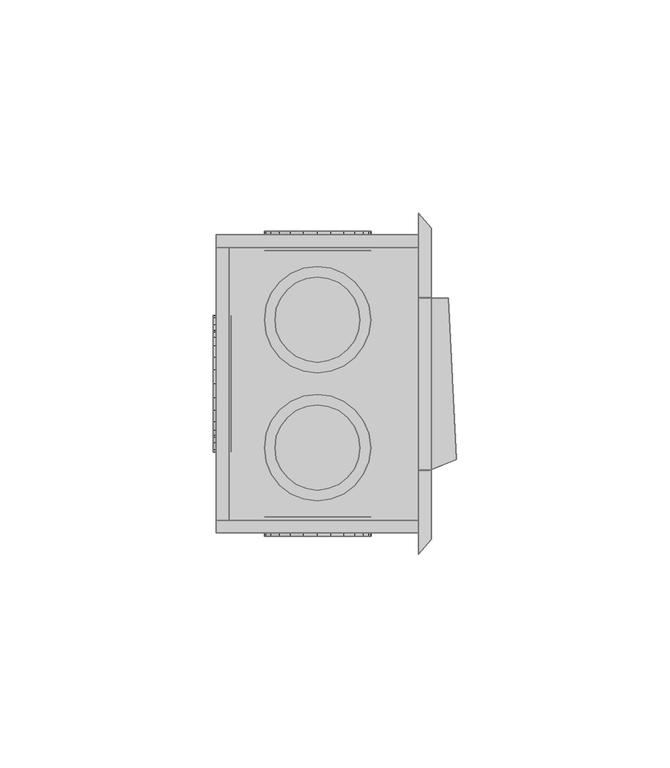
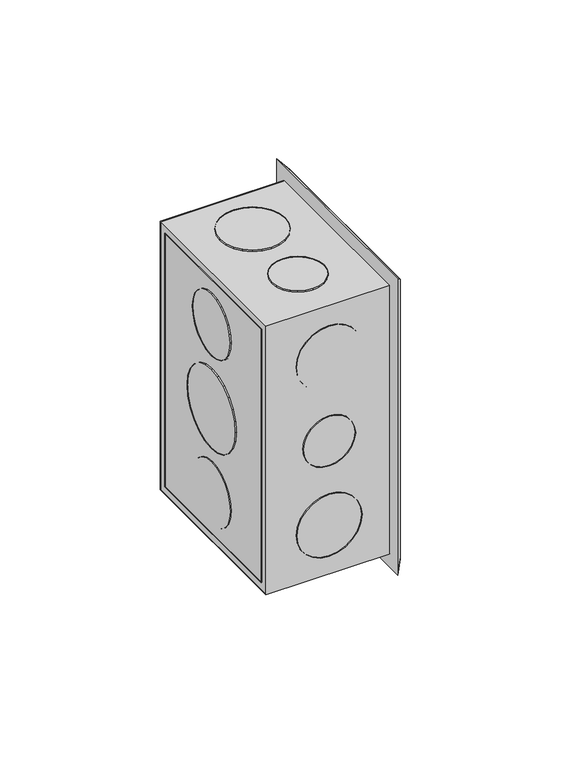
"""IFC4 building model written with IfcOpenShell, lengths in millimetres: proxy geometry,  210993 :  210993."""

from ifc_helpers import new_model, si_unit, origin, place, context, project, spatial, triangles, source, transform, mapped, element, save


def generic_models_ce6a7750(model_context):
    return source(origin(), model_context, "Body", "Tessellation", [
        triangles([(6623.3997849, 19710.5992126, 1254.3000378), (6623.3997849, 19707.5993958, 1148.7000154), (6623.3997849, 19710.5992126, 1145.6999805), (6623.3997849, 19707.5993958, 1251.2999302), (6623.3997849, 19640.6011597, 1254.3000378), (6623.3997849, 19643.6009766, 1251.2999302), (6623.3997849, 19640.6011597, 1145.6999805), (6623.3997849, 19643.6009766, 1148.7000154), (6575.8997772, 19707.5993958, 1251.2999302), (6575.8997772, 19707.5993958, 1148.7000154), (6575.8997772, 19640.6011597, 1254.3000378), (6575.8997772, 19640.6011597, 1145.6999805), (6575.8997772, 19643.6009766, 1251.2999302), (6575.8997772, 19710.5992126, 1145.6999805), (6575.8997772, 19643.6009766, 1148.7000154), (6575.8997772, 19710.5992126, 1254.3000378), (6578.9001755, 19707.5993958, 1251.2999302), (6578.9001755, 19643.6009766, 1148.7000154), (6578.9001755, 19707.5993958, 1148.7000154), (6578.9001755, 19643.6009766, 1251.2999302), (6579.400145, 19689.5005005, 1191.9999887), (6579.400145, 19683.6008606, 1186.0999855), (6579.400145, 19686.9006592, 1188.6999722), (6579.400145, 19691.1004028, 1195.8999687), (6579.400145, 19679.8010925, 1184.5000105), (6579.400145, 19691.6003723, 1200.0000092), (6579.400145, 19675.5990234, 1183.9999683), (6579.400145, 19691.1004028, 1204.0999769), (6579.400145, 19671.4992737, 1184.5000105), (6579.400145, 19689.5005005, 1208.0000296), (6579.400145, 19667.5995117, 1186.0999855), (6579.400145, 19686.9006592, 1211.2999735), (6579.400145, 19664.2997131, 1188.6999722), (6579.400145, 19683.6008606, 1213.9000328), (6579.400145, 19661.7998657, 1191.9999887), (6579.400145, 19679.8010925, 1215.5000078), (6579.400145, 19660.1999634, 1195.8999687), (6579.400145, 19675.5990234, 1215.9999773), (6579.400145, 19659.6, 1200.0000092), (6579.400145, 19671.4992737, 1215.5000078), (6579.400145, 19660.1999634, 1204.0999769), (6579.400145, 19667.5995117, 1213.9000328), (6579.400145, 19661.7998657, 1208.0000296), (6579.400145, 19664.2997131, 1211.2999735), (6575.1998199, 19671.4992737, 1184.5000105), (6575.1998199, 19675.5990234, 1183.9999683), (6575.1998199, 19679.8010925, 1184.5000105), (6575.1998199, 19683.6008606, 1186.0999855), (6575.1998199, 19686.9006592, 1188.6999722), (6575.1998199, 19689.5005005, 1191.9999887), (6575.1998199, 19691.1004028, 1195.8999687), (6575.1998199, 19691.6003723, 1200.0000092), (6575.1998199, 19691.1004028, 1204.0999769), (6575.1998199, 19689.5005005, 1208.0000296), (6575.1998199, 19686.9006592, 1211.2999735), (6575.1998199, 19683.6008606, 1213.9000328), (6575.1998199, 19679.8010925, 1215.5000078), (6575.1998199, 19675.5990234, 1215.9999773), (6575.1998199, 19671.4992737, 1215.5000078), (6575.1998199, 19667.5995117, 1213.9000328), (6575.1998199, 19664.2997131, 1211.2999735), (6575.1998199, 19661.7998657, 1208.0000296), (6575.1998199, 19660.1999634, 1204.0999769), (6575.1998199, 19659.6, 1200.0000092), (6575.1998199, 19660.1999634, 1195.8999687), (6575.1998199, 19661.7998657, 1191.9999887), (6575.1998199, 19664.2997131, 1188.6999722), (6575.1998199, 19667.5995117, 1186.0999855), (6579.400145, 19686.5006836, 1227.8000565), (6579.400145, 19681.9009644, 1223.2000465), (6579.400145, 19684.5008057, 1225.2000698), (6579.400145, 19687.7006104, 1230.8000187), (6579.400145, 19678.9011475, 1221.8999805), (6579.400145, 19688.1005859, 1233.9999687), (6579.400145, 19675.5990234, 1221.500005), (6579.400145, 19687.7006104, 1237.2000641), (6579.400145, 19672.3992188, 1221.8999805), (6579.400145, 19686.5006836, 1240.3000202), (6579.400145, 19669.3994019, 1223.2000465), (6579.400145, 19684.5008057, 1242.800013), (6579.400145, 19666.7995605, 1225.2000698), (6579.400145, 19664.7996826, 1227.8000565), (6579.400145, 19681.9009644, 1244.8000362), (6579.400145, 19678.9011475, 1246.0999569), (6579.400145, 19663.5997559, 1230.8000187), (6579.400145, 19675.5990234, 1246.4999325), (6579.400145, 19663.0997864, 1233.9999687), (6579.400145, 19672.3992188, 1246.0999569), (6579.400145, 19663.5997559, 1237.2000641), (6579.400145, 19664.7996826, 1240.3000202), (6579.400145, 19669.3994019, 1244.8000362), (6579.400145, 19666.7995605, 1242.800013), (6575.1998199, 19663.5997559, 1230.8000187), (6575.1998199, 19664.7996826, 1227.8000565), (6575.1998199, 19666.7995605, 1225.2000698), (6575.1998199, 19669.3994019, 1223.2000465), (6575.1998199, 19672.3992188, 1221.8999805), (6575.1998199, 19675.5990234, 1221.500005), (6575.1998199, 19678.9011475, 1221.8999805), (6575.1998199, 19681.9009644, 1223.2000465), (6575.1998199, 19684.5008057, 1225.2000698), (6575.1998199, 19686.5006836, 1227.8000565), (6575.1998199, 19687.7006104, 1230.8000187), (6575.1998199, 19688.1005859, 1233.9999687), (6575.1998199, 19687.7006104, 1237.2000641), (6575.1998199, 19686.5006836, 1240.3000202), (6575.1998199, 19684.5008057, 1242.800013), (6575.1998199, 19681.9009644, 1244.8000362), (6575.1998199, 19678.9011475, 1246.0999569), (6575.1998199, 19675.5990234, 1246.4999325), (6575.1998199, 19672.3992188, 1246.0999569), (6575.1998199, 19669.3994019, 1244.8000362), (6575.1998199, 19666.7995605, 1242.800013), (6575.1998199, 19664.7996826, 1240.3000202), (6575.1998199, 19663.5997559, 1237.2000641), (6575.1998199, 19663.0997864, 1233.9999687), (6575.1998199, 19681.9009644, 1155.1999821), (6575.1998199, 19686.5006836, 1159.6999981), (6575.1998199, 19684.5008057, 1157.2000053), (6575.1998199, 19678.9011475, 1153.8999887), (6575.1998199, 19687.7006104, 1162.8000269), (6575.1998199, 19675.5990234, 1153.5000132), (6575.1998199, 19688.1005859, 1165.9999769), (6575.1998199, 19672.3992188, 1153.8999887), (6575.1998199, 19687.7006104, 1169.1999996), (6575.1998199, 19669.3994019, 1155.1999821), (6575.1998199, 19686.5006836, 1172.2000345), (6575.1998199, 19666.7995605, 1157.2000053), (6575.1998199, 19684.5008057, 1174.8000212), (6575.1998199, 19664.7996826, 1159.6999981), (6575.1998199, 19681.9009644, 1176.7999718), (6575.1998199, 19663.5997559, 1162.8000269), (6575.1998199, 19678.9011475, 1178.0999651), (6575.1998199, 19675.5990234, 1178.5000134), (6575.1998199, 19663.0997864, 1165.9999769), (6575.1998199, 19663.5997559, 1169.1999996), (6575.1998199, 19672.3992188, 1178.0999651), (6575.1998199, 19664.7996826, 1172.2000345), (6575.1998199, 19669.3994019, 1176.7999718), (6575.1998199, 19666.7995605, 1174.8000212), (6579.400145, 19678.9011475, 1178.0999651), (6579.400145, 19675.5990234, 1178.5000134), (6579.400145, 19681.9009644, 1176.7999718), (6579.400145, 19684.5008057, 1174.8000212), (6579.400145, 19686.5006836, 1172.2000345), (6579.400145, 19687.7006104, 1169.1999996), (6579.400145, 19688.1005859, 1165.9999769), (6579.400145, 19687.7006104, 1162.8000269), (6579.400145, 19686.5006836, 1159.6999981), (6579.400145, 19684.5008057, 1157.2000053), (6579.400145, 19681.9009644, 1155.1999821), (6579.400145, 19678.9011475, 1153.8999887), (6579.400145, 19675.5990234, 1153.5000132), (6579.400145, 19672.3992188, 1153.8999887), (6579.400145, 19669.3994019, 1155.1999821), (6579.400145, 19666.7995605, 1157.2000053), (6579.400145, 19664.7996826, 1159.6999981), (6579.400145, 19663.5997559, 1162.8000269), (6579.400145, 19663.0997864, 1165.9999769), (6579.400145, 19663.5997559, 1169.1999996), (6579.400145, 19664.7996826, 1172.2000345), (6579.400145, 19666.7995605, 1174.8000212), (6579.400145, 19669.3994019, 1176.7999718), (6579.400145, 19672.3992188, 1178.0999651), (6594.6997925, 19706.7994446, 1191.3000315), (6591.0000183, 19706.7994446, 1195.0000237), (6592.5999207, 19706.7994446, 1192.9000065), (6590.0000793, 19706.7994446, 1197.4000225), (6597.1002274, 19706.7994446, 1190.3000198), (6589.7000977, 19706.7994446, 1200.0000092), (6599.7000687, 19706.7994446, 1189.9999655), (6602.1999161, 19706.7994446, 1190.3000198), (6590.0000793, 19706.7994446, 1202.5999958), (6591.0000183, 19706.7994446, 1204.9999947), (6604.6997635, 19706.7994446, 1191.3000315), (6592.5999207, 19706.7994446, 1207.1000118), (6606.7002228, 19706.7994446, 1192.9000065), (6608.3001251, 19706.7994446, 1195.0000237), (6594.6997925, 19706.7994446, 1208.6999868), (6609.3000641, 19706.7994446, 1197.4000225), (6597.1002274, 19706.7994446, 1209.6999985), (6609.7000397, 19706.7994446, 1200.0000092), (6599.7000687, 19706.7994446, 1209.9999802), (6609.3000641, 19706.7994446, 1202.5999958), (6602.1999161, 19706.7994446, 1209.6999985), (6604.6997635, 19706.7994446, 1208.6999868), (6608.3001251, 19706.7994446, 1204.9999947), (6606.7002228, 19706.7994446, 1207.1000118), (6599.7000687, 19711.3991638, 1189.9999655), (6597.1002274, 19711.3991638, 1190.3000198), (6602.1999161, 19711.3991638, 1190.3000198), (6604.6997635, 19711.3991638, 1191.3000315), (6606.7002228, 19711.3991638, 1192.9000065), (6608.3001251, 19711.3991638, 1195.0000237), (6609.3000641, 19711.3991638, 1197.4000225), (6609.7000397, 19711.3991638, 1200.0000092), (6609.3000641, 19711.3991638, 1202.5999958), (6608.3001251, 19711.3991638, 1204.9999947), (6606.7002228, 19711.3991638, 1207.1000118), (6604.6997635, 19711.3991638, 1208.6999868), (6602.1999161, 19711.3991638, 1209.6999985), (6599.7000687, 19711.3991638, 1209.9999802), (6597.1002274, 19711.3991638, 1209.6999985), (6594.6997925, 19711.3991638, 1208.6999868), (6592.5999207, 19711.3991638, 1207.1000118), (6591.0000183, 19711.3991638, 1204.9999947), (6590.0000793, 19711.3991638, 1202.5999958), (6589.7000977, 19711.3991638, 1200.0000092), (6590.0000793, 19711.3991638, 1197.4000225), (6591.0000183, 19711.3991638, 1195.0000237), (6592.5999207, 19711.3991638, 1192.9000065), (6594.6997925, 19711.3991638, 1191.3000315), (6593.3998718, 19706.7994446, 1223.2000465), (6588.8001526, 19706.7994446, 1227.8000565), (6590.8000305, 19706.7994446, 1225.2000698), (6596.4002701, 19706.7994446, 1221.8999805), (6587.6002258, 19706.7994446, 1230.8000187), (6587.2002502, 19706.7994446, 1233.9999687), (6599.7000687, 19706.7994446, 1221.500005), (6602.8998734, 19706.7994446, 1221.8999805), (6587.6002258, 19706.7994446, 1237.2000641), (6588.8001526, 19706.7994446, 1240.3000202), (6605.9002716, 19706.7994446, 1223.2000465), (6608.5001129, 19706.7994446, 1225.2000698), (6590.8000305, 19706.7994446, 1242.800013), (6610.4999908, 19706.7994446, 1227.8000565), (6593.3998718, 19706.7994446, 1244.8000362), (6611.6999176, 19706.7994446, 1230.8000187), (6596.4002701, 19706.7994446, 1246.0999569), (6612.1998871, 19706.7994446, 1233.9999687), (6599.7000687, 19706.7994446, 1246.4999325), (6611.6999176, 19706.7994446, 1237.2000641), (6602.8998734, 19706.7994446, 1246.0999569), (6610.4999908, 19706.7994446, 1240.3000202), (6605.9002716, 19706.7994446, 1244.8000362), (6608.5001129, 19706.7994446, 1242.800013), (6599.7000687, 19711.3991638, 1221.500005), (6596.4002701, 19711.3991638, 1221.8999805), (6602.8998734, 19711.3991638, 1221.8999805), (6605.9002716, 19711.3991638, 1223.2000465), (6608.5001129, 19711.3991638, 1225.2000698), (6610.4999908, 19711.3991638, 1227.8000565), (6611.6999176, 19711.3991638, 1230.8000187), (6612.1998871, 19711.3991638, 1233.9999687), (6611.6999176, 19711.3991638, 1237.2000641), (6610.4999908, 19711.3991638, 1240.3000202), (6608.5001129, 19711.3991638, 1242.800013), (6605.9002716, 19711.3991638, 1244.8000362), (6602.8998734, 19711.3991638, 1246.0999569), (6599.7000687, 19711.3991638, 1246.4999325), (6596.4002701, 19711.3991638, 1246.0999569), (6593.3998718, 19711.3991638, 1244.8000362), (6590.8000305, 19711.3991638, 1242.800013), (6588.8001526, 19711.3991638, 1240.3000202), (6587.6002258, 19711.3991638, 1237.2000641), (6587.2002502, 19711.3991638, 1233.9999687), (6587.6002258, 19711.3991638, 1230.8000187), (6588.8001526, 19711.3991638, 1227.8000565), (6590.8000305, 19711.3991638, 1225.2000698), (6593.3998718, 19711.3991638, 1223.2000465), (6588.8001526, 19711.3991638, 1159.6999981), (6593.3998718, 19711.3991638, 1155.1999821), (6590.8000305, 19711.3991638, 1157.2000053), (6587.6002258, 19711.3991638, 1162.8000269), (6596.4002701, 19711.3991638, 1153.8999887), (6587.2002502, 19711.3991638, 1165.9999769), (6599.7000687, 19711.3991638, 1153.5000132), (6587.6002258, 19711.3991638, 1169.1999996), (6602.8998734, 19711.3991638, 1153.8999887), (6588.8001526, 19711.3991638, 1172.2000345), (6605.9002716, 19711.3991638, 1155.1999821), (6590.8000305, 19711.3991638, 1174.8000212), (6608.5001129, 19711.3991638, 1157.2000053), (6593.3998718, 19711.3991638, 1176.7999718), (6610.4999908, 19711.3991638, 1159.6999981), (6596.4002701, 19711.3991638, 1178.0999651), (6611.6999176, 19711.3991638, 1162.8000269), (6599.7000687, 19711.3991638, 1178.5000134), (6612.1998871, 19711.3991638, 1165.9999769), (6602.8998734, 19711.3991638, 1178.0999651), (6611.6999176, 19711.3991638, 1169.1999996), (6605.9002716, 19711.3991638, 1176.7999718), (6610.4999908, 19711.3991638, 1172.2000345), (6608.5001129, 19711.3991638, 1174.8000212), (6596.4002701, 19706.7994446, 1178.0999651), (6599.7000687, 19706.7994446, 1178.5000134), (6602.8998734, 19706.7994446, 1178.0999651), (6605.9002716, 19706.7994446, 1176.7999718), (6608.5001129, 19706.7994446, 1174.8000212), (6610.4999908, 19706.7994446, 1172.2000345), (6611.6999176, 19706.7994446, 1169.1999996), (6612.1998871, 19706.7994446, 1165.9999769), (6611.6999176, 19706.7994446, 1162.8000269), (6610.4999908, 19706.7994446, 1159.6999981), (6608.5001129, 19706.7994446, 1157.2000053), (6605.9002716, 19706.7994446, 1155.1999821), (6602.8998734, 19706.7994446, 1153.8999887), (6599.7000687, 19706.7994446, 1153.5000132), (6596.4002701, 19706.7994446, 1153.8999887), (6593.3998718, 19706.7994446, 1155.1999821), (6590.8000305, 19706.7994446, 1157.2000053), (6588.8001526, 19706.7994446, 1159.6999981), (6587.6002258, 19706.7994446, 1162.8000269), (6587.2002502, 19706.7994446, 1165.9999769), (6587.6002258, 19706.7994446, 1169.1999996), (6588.8001526, 19706.7994446, 1172.2000345), (6590.8000305, 19706.7994446, 1174.8000212), (6593.3998718, 19706.7994446, 1176.7999718), (6591.0000183, 19644.4009277, 1195.0000237), (6594.6997925, 19644.4009277, 1191.3000315), (6592.5999207, 19644.4009277, 1192.9000065), (6590.0000793, 19644.4009277, 1197.4000225), (6597.1002274, 19644.4009277, 1190.3000198), (6589.7000977, 19644.4009277, 1200.0000092), (6599.7000687, 19644.4009277, 1189.9999655), (6590.0000793, 19644.4009277, 1202.5999958), (6602.1999161, 19644.4009277, 1190.3000198), (6591.0000183, 19644.4009277, 1204.9999947), (6604.6997635, 19644.4009277, 1191.3000315), (6592.5999207, 19644.4009277, 1207.1000118), (6606.7002228, 19644.4009277, 1192.9000065), (6594.6997925, 19644.4009277, 1208.6999868), (6608.3001251, 19644.4009277, 1195.0000237), (6597.1002274, 19644.4009277, 1209.6999985), (6609.3000641, 19644.4009277, 1197.4000225), (6609.7000397, 19644.4009277, 1200.0000092), (6599.7000687, 19644.4009277, 1209.9999802), (6602.1999161, 19644.4009277, 1209.6999985), (6609.3000641, 19644.4009277, 1202.5999958), (6604.6997635, 19644.4009277, 1208.6999868), (6608.3001251, 19644.4009277, 1204.9999947), (6606.7002228, 19644.4009277, 1207.1000118), (6597.1002274, 19639.7988831, 1209.6999985), (6599.7000687, 19639.7988831, 1209.9999802), (6602.1999161, 19639.7988831, 1209.6999985), (6604.6997635, 19639.7988831, 1208.6999868), (6606.7002228, 19639.7988831, 1207.1000118), (6608.3001251, 19639.7988831, 1204.9999947), (6609.3000641, 19639.7988831, 1202.5999958), (6609.7000397, 19639.7988831, 1200.0000092), (6609.3000641, 19639.7988831, 1197.4000225), (6608.3001251, 19639.7988831, 1195.0000237), (6606.7002228, 19639.7988831, 1192.9000065), (6604.6997635, 19639.7988831, 1191.3000315), (6602.1999161, 19639.7988831, 1190.3000198), (6599.7000687, 19639.7988831, 1189.9999655), (6597.1002274, 19639.7988831, 1190.3000198), (6594.6997925, 19639.7988831, 1191.3000315), (6592.5999207, 19639.7988831, 1192.9000065), (6591.0000183, 19639.7988831, 1195.0000237), (6590.0000793, 19639.7988831, 1197.4000225), (6589.7000977, 19639.7988831, 1200.0000092), (6590.0000793, 19639.7988831, 1202.5999958), (6591.0000183, 19639.7988831, 1204.9999947), (6592.5999207, 19639.7988831, 1207.1000118), (6594.6997925, 19639.7988831, 1208.6999868), (6588.8001526, 19644.4009277, 1159.6999981), (6593.3998718, 19644.4009277, 1155.1999821), (6590.8000305, 19644.4009277, 1157.2000053), (6587.6002258, 19644.4009277, 1162.8000269), (6596.4002701, 19644.4009277, 1153.8999887), (6587.2002502, 19644.4009277, 1165.9999769), (6599.7000687, 19644.4009277, 1153.5000132), (6587.6002258, 19644.4009277, 1169.1999996), (6602.8998734, 19644.4009277, 1153.8999887), (6588.8001526, 19644.4009277, 1172.2000345), (6605.9002716, 19644.4009277, 1155.1999821), (6590.8000305, 19644.4009277, 1174.8000212), (6608.5001129, 19644.4009277, 1157.2000053), (6593.3998718, 19644.4009277, 1176.7999718), (6610.4999908, 19644.4009277, 1159.6999981), (6596.4002701, 19644.4009277, 1178.0999651), (6611.6999176, 19644.4009277, 1162.8000269), (6599.7000687, 19644.4009277, 1178.5000134), (6612.1998871, 19644.4009277, 1165.9999769), (6602.8998734, 19644.4009277, 1178.0999651), (6611.6999176, 19644.4009277, 1169.1999996), (6605.9002716, 19644.4009277, 1176.7999718), (6610.4999908, 19644.4009277, 1172.2000345), (6608.5001129, 19644.4009277, 1174.8000212), (6596.4002701, 19639.7988831, 1178.0999651), (6599.7000687, 19639.7988831, 1178.5000134), (6602.8998734, 19639.7988831, 1178.0999651), (6605.9002716, 19639.7988831, 1176.7999718), (6608.5001129, 19639.7988831, 1174.8000212), (6610.4999908, 19639.7988831, 1172.2000345), (6611.6999176, 19639.7988831, 1169.1999996), (6612.1998871, 19639.7988831, 1165.9999769), (6611.6999176, 19639.7988831, 1162.8000269), (6610.4999908, 19639.7988831, 1159.6999981), (6608.5001129, 19639.7988831, 1157.2000053), (6605.9002716, 19639.7988831, 1155.1999821), (6602.8998734, 19639.7988831, 1153.8999887), (6599.7000687, 19639.7988831, 1153.5000132), (6596.4002701, 19639.7988831, 1153.8999887), (6593.3998718, 19639.7988831, 1155.1999821), (6590.8000305, 19639.7988831, 1157.2000053), (6588.8001526, 19639.7988831, 1159.6999981), (6587.6002258, 19639.7988831, 1162.8000269), (6587.2002502, 19639.7988831, 1165.9999769), (6587.6002258, 19639.7988831, 1169.1999996), (6588.8001526, 19639.7988831, 1172.2000345), (6590.8000305, 19639.7988831, 1174.8000212), (6593.3998718, 19639.7988831, 1176.7999718), (6593.3998718, 19639.7988831, 1223.2000465), (6588.8001526, 19639.7988831, 1227.8000565), (6590.8000305, 19639.7988831, 1225.2000698), (6596.4002701, 19639.7988831, 1221.8999805), (6587.6002258, 19639.7988831, 1230.8000187), (6587.2002502, 19639.7988831, 1233.9999687), (6599.7000687, 19639.7988831, 1221.500005), (6602.8998734, 19639.7988831, 1221.8999805), (6587.6002258, 19639.7988831, 1237.2000641), (6588.8001526, 19639.7988831, 1240.3000202), (6605.9002716, 19639.7988831, 1223.2000465), (6608.5001129, 19639.7988831, 1225.2000698), (6590.8000305, 19639.7988831, 1242.800013), (6610.4999908, 19639.7988831, 1227.8000565), (6593.3998718, 19639.7988831, 1244.8000362), (6611.6999176, 19639.7988831, 1230.8000187), (6596.4002701, 19639.7988831, 1246.0999569), (6612.1998871, 19639.7988831, 1233.9999687), (6599.7000687, 19639.7988831, 1246.4999325), (6611.6999176, 19639.7988831, 1237.2000641), (6602.8998734, 19639.7988831, 1246.0999569), (6610.4999908, 19639.7988831, 1240.3000202), (6605.9002716, 19639.7988831, 1244.8000362), (6608.5001129, 19639.7988831, 1242.800013), (6599.7000687, 19644.4009277, 1221.500005), (6596.4002701, 19644.4009277, 1221.8999805), (6602.8998734, 19644.4009277, 1221.8999805), (6605.9002716, 19644.4009277, 1223.2000465), (6608.5001129, 19644.4009277, 1225.2000698), (6610.4999908, 19644.4009277, 1227.8000565), (6611.6999176, 19644.4009277, 1230.8000187), (6612.1998871, 19644.4009277, 1233.9999687), (6611.6999176, 19644.4009277, 1237.2000641), (6610.4999908, 19644.4009277, 1240.3000202), (6608.5001129, 19644.4009277, 1242.800013), (6605.9002716, 19644.4009277, 1244.8000362), (6602.8998734, 19644.4009277, 1246.0999569), (6599.7000687, 19644.4009277, 1246.4999325), (6596.4002701, 19644.4009277, 1246.0999569), (6593.3998718, 19644.4009277, 1244.8000362), (6590.8000305, 19644.4009277, 1242.800013), (6588.8001526, 19644.4009277, 1240.3000202), (6587.6002258, 19644.4009277, 1237.2000641), (6587.2002502, 19644.4009277, 1233.9999687), (6587.6002258, 19644.4009277, 1230.8000187), (6588.8001526, 19644.4009277, 1227.8000565), (6590.8000305, 19644.4009277, 1225.2000698), (6593.3998718, 19644.4009277, 1223.2000465), (6593.3998718, 19701.4997681, 1250.9999485), (6588.8001526, 19696.9000488, 1250.9999485), (6590.8000305, 19699.4998901, 1250.9999485), (6596.4002701, 19702.6996948, 1250.9999485), (6587.6002258, 19693.9002319, 1250.9999485), (6587.2002502, 19690.6004333, 1250.9999485), (6599.7000687, 19703.0996704, 1250.9999485), (6602.8998734, 19702.6996948, 1250.9999485), (6587.6002258, 19687.4006287, 1250.9999485), (6588.8001526, 19684.4008118, 1250.9999485), (6605.9002716, 19701.4997681, 1250.9999485), (6608.5001129, 19699.4998901, 1250.9999485), (6590.8000305, 19681.8009705, 1250.9999485), (6593.3998718, 19679.8010925, 1250.9999485), (6610.4999908, 19696.9000488, 1250.9999485), (6611.6999176, 19693.9002319, 1250.9999485), (6596.4002701, 19678.5988403, 1250.9999485), (6612.1998871, 19690.6004333, 1250.9999485), (6599.7000687, 19678.0988708, 1250.9999485), (6611.6999176, 19687.4006287, 1250.9999485), (6602.8998734, 19678.5988403, 1250.9999485), (6605.9002716, 19679.8010925, 1250.9999485), (6610.4999908, 19684.4008118, 1250.9999485), (6608.5001129, 19681.8009705, 1250.9999485), (6587.2002502, 19690.6004333, 1255.1999828), (6587.6002258, 19687.4006287, 1255.1999828), (6587.6002258, 19693.9002319, 1255.1999828), (6588.8001526, 19696.9000488, 1255.1999828), (6590.8000305, 19699.4998901, 1255.1999828), (6593.3998718, 19701.4997681, 1255.1999828), (6596.4002701, 19702.6996948, 1255.1999828), (6599.7000687, 19703.0996704, 1255.1999828), (6602.8998734, 19702.6996948, 1255.1999828), (6605.9002716, 19701.4997681, 1255.1999828), (6608.5001129, 19699.4998901, 1255.1999828), (6610.4999908, 19696.9000488, 1255.1999828), (6611.6999176, 19693.9002319, 1255.1999828), (6612.1998871, 19690.6004333, 1255.1999828), (6611.6999176, 19687.4006287, 1255.1999828), (6610.4999908, 19684.4008118, 1255.1999828), (6608.5001129, 19681.8009705, 1255.1999828), (6605.9002716, 19679.8010925, 1255.1999828), (6602.8998734, 19678.5988403, 1255.1999828), (6599.7000687, 19678.0988708, 1255.1999828), (6596.4002701, 19678.5988403, 1255.1999828), (6593.3998718, 19679.8010925, 1255.1999828), (6590.8000305, 19681.8009705, 1255.1999828), (6588.8001526, 19684.4008118, 1255.1999828), (6594.6997925, 19669.299408, 1250.9999485), (6591.0000183, 19665.5996338, 1250.9999485), (6592.5999207, 19667.6995056, 1250.9999485), (6590.0000793, 19663.1997803, 1250.9999485), (6597.1002274, 19670.2993469, 1250.9999485), (6589.7000977, 19660.599939, 1250.9999485), (6599.7000687, 19670.5993286, 1250.9999485), (6602.1999161, 19670.2993469, 1250.9999485), (6590.0000793, 19658.0000977, 1250.9999485), (6591.0000183, 19655.6002441, 1250.9999485), (6604.6997635, 19669.299408, 1250.9999485), (6592.5999207, 19653.6003662, 1250.9999485), (6606.7002228, 19667.6995056, 1250.9999485), (6608.3001251, 19665.5996338, 1250.9999485), (6594.6997925, 19652.0004639, 1250.9999485), (6597.1002274, 19651.0005249, 1250.9999485), (6609.3000641, 19663.1997803, 1250.9999485), (6609.7000397, 19660.599939, 1250.9999485), (6599.7000687, 19650.6005493, 1250.9999485), (6609.3000641, 19658.0000977, 1250.9999485), (6602.1999161, 19651.0005249, 1250.9999485), (6608.3001251, 19655.6002441, 1250.9999485), (6604.6997635, 19652.0004639, 1250.9999485), (6606.7002228, 19653.6003662, 1250.9999485), (6590.0000793, 19658.0000977, 1255.1999828), (6591.0000183, 19655.6002441, 1255.1999828), (6589.7000977, 19660.599939, 1255.1999828), (6590.0000793, 19663.1997803, 1255.1999828), (6591.0000183, 19665.5996338, 1255.1999828), (6592.5999207, 19667.6995056, 1255.1999828), (6594.6997925, 19669.299408, 1255.1999828), (6597.1002274, 19670.2993469, 1255.1999828), (6599.7000687, 19670.5993286, 1255.1999828), (6602.1999161, 19670.2993469, 1255.1999828), (6604.6997635, 19669.299408, 1255.1999828), (6606.7002228, 19667.6995056, 1255.1999828), (6608.3001251, 19665.5996338, 1255.1999828), (6609.3000641, 19663.1997803, 1255.1999828), (6609.7000397, 19660.599939, 1255.1999828), (6609.3000641, 19658.0000977, 1255.1999828), (6608.3001251, 19655.6002441, 1255.1999828), (6606.7002228, 19653.6003662, 1255.1999828), (6604.6997635, 19652.0004639, 1255.1999828), (6602.1999161, 19651.0005249, 1255.1999828), (6599.7000687, 19650.6005493, 1255.1999828), (6597.1002274, 19651.0005249, 1255.1999828), (6594.6997925, 19652.0004639, 1255.1999828), (6592.5999207, 19653.6003662, 1255.1999828), (6594.6997925, 19699.2999023, 1144.8000355), (6591.0000183, 19695.6001282, 1144.8000355), (6592.5999207, 19697.7, 1144.8000355), (6590.0000793, 19693.2002747, 1144.8000355), (6597.1002274, 19700.2998413, 1144.8000355), (6589.7000977, 19690.6004333, 1144.8000355), (6599.7000687, 19700.599823, 1144.8000355), (6602.1999161, 19700.2998413, 1144.8000355), (6590.0000793, 19688.000592, 1144.8000355), (6591.0000183, 19685.6007385, 1144.8000355), (6604.6997635, 19699.2999023, 1144.8000355), (6592.5999207, 19683.6008606, 1144.8000355), (6606.7002228, 19697.7, 1144.8000355), (6608.3001251, 19695.6001282, 1144.8000355), (6594.6997925, 19682.0009583, 1144.8000355), (6597.1002274, 19681.0010193, 1144.8000355), (6609.3000641, 19693.2002747, 1144.8000355), (6609.7000397, 19690.6004333, 1144.8000355), (6599.7000687, 19680.6010437, 1144.8000355), (6609.3000641, 19688.000592, 1144.8000355), (6602.1999161, 19681.0010193, 1144.8000355), (6608.3001251, 19685.6007385, 1144.8000355), (6604.6997635, 19682.0009583, 1144.8000355), (6606.7002228, 19683.6008606, 1144.8000355), (6590.0000793, 19693.2002747, 1149.099991), (6589.7000977, 19690.6004333, 1149.099991), (6591.0000183, 19695.6001282, 1149.099991), (6592.5999207, 19697.7, 1149.099991), (6594.6997925, 19699.2999023, 1149.099991), (6597.1002274, 19700.2998413, 1149.099991), (6599.7000687, 19700.599823, 1149.099991), (6602.1999161, 19700.2998413, 1149.099991), (6604.6997635, 19699.2999023, 1149.099991), (6606.7002228, 19697.7, 1149.099991), (6608.3001251, 19695.6001282, 1149.099991), (6609.3000641, 19693.2002747, 1149.099991), (6609.7000397, 19690.6004333, 1149.099991), (6609.3000641, 19688.000592, 1149.099991), (6608.3001251, 19685.6007385, 1149.099991), (6606.7002228, 19683.6008606, 1149.099991), (6604.6997635, 19682.0009583, 1149.099991), (6602.1999161, 19681.0010193, 1149.099991), (6599.7000687, 19680.6010437, 1149.099991), (6597.1002274, 19681.0010193, 1149.099991), (6594.6997925, 19682.0009583, 1149.099991), (6592.5999207, 19683.6008606, 1149.099991), (6591.0000183, 19685.6007385, 1149.099991), (6590.0000793, 19688.000592, 1149.099991), (6593.3998718, 19671.4992737, 1144.8000355), (6588.8001526, 19666.8995544, 1144.8000355), (6590.8000305, 19669.4993958, 1144.8000355), (6596.4002701, 19672.6992004, 1144.8000355), (6587.6002258, 19663.8997375, 1144.8000355), (6587.2002502, 19660.599939, 1144.8000355), (6599.7000687, 19673.099176, 1144.8000355), (6602.8998734, 19672.6992004, 1144.8000355), (6587.6002258, 19657.4001343, 1144.8000355), (6588.8001526, 19654.4003174, 1144.8000355), (6605.9002716, 19671.4992737, 1144.8000355), (6608.5001129, 19669.4993958, 1144.8000355), (6590.8000305, 19651.8004761, 1144.8000355), (6593.3998718, 19649.8005981, 1144.8000355), (6610.4999908, 19666.8995544, 1144.8000355), (6611.6999176, 19663.8997375, 1144.8000355), (6596.4002701, 19648.6006714, 1144.8000355), (6612.1998871, 19660.599939, 1144.8000355), (6599.7000687, 19648.1007019, 1144.8000355), (6611.6999176, 19657.4001343, 1144.8000355), (6602.8998734, 19648.6006714, 1144.8000355), (6605.9002716, 19649.8005981, 1144.8000355), (6610.4999908, 19654.4003174, 1144.8000355), (6608.5001129, 19651.8004761, 1144.8000355), (6587.6002258, 19657.4001343, 1149.099991), (6588.8001526, 19654.4003174, 1149.099991), (6587.2002502, 19660.599939, 1149.099991), (6587.6002258, 19663.8997375, 1149.099991), (6588.8001526, 19666.8995544, 1149.099991), (6590.8000305, 19669.4993958, 1149.099991), (6593.3998718, 19671.4992737, 1149.099991), (6596.4002701, 19672.6992004, 1149.099991), (6599.7000687, 19673.099176, 1149.099991), (6602.8998734, 19672.6992004, 1149.099991), (6605.9002716, 19671.4992737, 1149.099991), (6608.5001129, 19669.4993958, 1149.099991), (6610.4999908, 19666.8995544, 1149.099991), (6611.6999176, 19663.8997375, 1149.099991), (6612.1998871, 19660.599939, 1149.099991), (6611.6999176, 19657.4001343, 1149.099991), (6610.4999908, 19654.4003174, 1149.099991), (6608.5001129, 19651.8004761, 1149.099991), (6605.9002716, 19649.8005981, 1149.099991), (6602.8998734, 19648.6006714, 1149.099991), (6599.7000687, 19648.1007019, 1149.099991), (6596.4002701, 19648.6006714, 1149.099991), (6593.3998718, 19649.8005981, 1149.099991), (6590.8000305, 19651.8004761, 1149.099991), (6623.3997849, 19635.5991394, 1139.9999651), (6623.3997849, 19695.800116, 1188.2999966), (6623.3997849, 19715.5989075, 1139.9999651), (6623.3997849, 19655.4002563, 1188.2999966), (6623.3997849, 19635.5991394, 1259.9999805), (6623.3997849, 19655.4002563, 1211.7000217), (6623.3997849, 19715.5989075, 1259.9999805), (6623.3997849, 19695.800116, 1211.7000217), (6626.4001831, 19655.4002563, 1188.2999966), (6626.4001831, 19655.4002563, 1211.7000217), (6626.4001831, 19695.800116, 1188.2999966), (6626.4001831, 19695.800116, 1211.7000217), (6626.4001831, 19712.0991211, 1143.4999695), (6626.4001831, 19712.0991211, 1256.5000488), (6626.4001831, 19639.0989258, 1143.4999695), (6626.4001831, 19639.0989258, 1256.5000488), (6630.399939, 19695.7001221, 1188.1000088), (6623.3997849, 19655.3002625, 1188.1000088), (6623.3997849, 19695.7001221, 1188.1000088), (6632.299823, 19657.9001038, 1188.1000088), (6625.9002136, 19655.3002625, 1188.1000088), (6623.3997849, 19695.7001221, 1211.500034), (6623.3997849, 19655.3002625, 1211.500034), (6630.399939, 19695.7001221, 1211.500034), (6632.299823, 19657.9001038, 1211.500034), (6625.9002136, 19655.3002625, 1211.500034)], [[1, 2, 3], [2, 1, 4], [5, 4, 1], [4, 5, 6], [3, 2, 7], [7, 2, 8], [7, 8, 6], [7, 6, 5], [2, 9, 10], [9, 2, 4], [7, 11, 12], [11, 7, 5], [4, 13, 9], [13, 4, 6], [3, 12, 14], [12, 3, 7], [13, 8, 15], [8, 13, 6], [16, 3, 14], [3, 16, 1], [15, 2, 10], [2, 15, 8], [11, 1, 16], [1, 11, 5], [12, 10, 14], [10, 12, 15], [11, 15, 12], [15, 11, 13], [14, 10, 16], [16, 10, 9], [16, 9, 13], [16, 13, 11], [17, 18, 19], [18, 17, 20], [18, 13, 15], [13, 18, 20], [19, 15, 10], [15, 19, 18], [9, 19, 10], [19, 9, 17], [13, 17, 9], [17, 13, 20], [15, 9, 10], [9, 15, 13], [21, 22, 23], [22, 21, 24], [25, 22, 24], [25, 24, 26], [27, 25, 26], [27, 26, 28], [29, 27, 28], [29, 28, 30], [31, 29, 30], [31, 30, 32], [31, 32, 33], [33, 32, 34], [33, 34, 35], [35, 34, 36], [35, 36, 37], [37, 36, 38], [37, 38, 39], [39, 38, 40], [39, 40, 41], [41, 40, 42], [41, 42, 43], [43, 42, 44], [27, 45, 46], [45, 27, 29], [25, 46, 47], [46, 25, 27], [22, 47, 48], [47, 22, 25], [23, 48, 49], [48, 23, 22], [50, 23, 49], [23, 50, 21], [51, 21, 50], [21, 51, 24], [52, 24, 51], [24, 52, 26], [53, 26, 52], [26, 53, 28], [54, 28, 53], [28, 54, 30], [55, 30, 54], [30, 55, 32], [56, 32, 55], [32, 56, 34], [57, 34, 56], [34, 57, 36], [58, 36, 57], [36, 58, 38], [59, 38, 58], [38, 59, 40], [60, 40, 59], [40, 60, 42], [61, 42, 60], [42, 61, 44], [43, 61, 62], [61, 43, 44], [41, 62, 63], [62, 41, 43], [39, 63, 64], [63, 39, 41], [37, 64, 65], [64, 37, 39], [35, 65, 66], [65, 35, 37], [33, 66, 67], [66, 33, 35], [31, 67, 68], [67, 31, 33], [29, 68, 45], [68, 29, 31], [48, 50, 49], [50, 48, 47], [51, 50, 47], [51, 47, 46], [52, 51, 46], [52, 46, 45], [53, 52, 45], [53, 45, 68], [54, 53, 68], [54, 68, 67], [54, 67, 55], [55, 67, 66], [55, 66, 56], [56, 66, 65], [56, 65, 57], [57, 65, 64], [57, 64, 58], [58, 64, 63], [58, 63, 59], [59, 63, 62], [59, 62, 60], [60, 62, 61], [69, 70, 71], [70, 69, 72], [73, 70, 72], [73, 72, 74], [75, 73, 74], [75, 74, 76], [77, 75, 76], [77, 76, 78], [79, 77, 78], [79, 78, 80], [81, 79, 80], [81, 80, 82], [82, 80, 83], [82, 83, 84], [82, 84, 85], [85, 84, 86], [85, 86, 87], [87, 86, 88], [87, 88, 89], [89, 88, 90], [90, 88, 91], [90, 91, 92], [82, 93, 94], [93, 82, 85], [81, 94, 95], [94, 81, 82], [79, 95, 96], [95, 79, 81], [77, 96, 97], [96, 77, 79], [75, 97, 98], [97, 75, 77], [73, 98, 99], [98, 73, 75], [70, 99, 100], [99, 70, 73], [71, 100, 101], [100, 71, 70], [102, 71, 101], [71, 102, 69], [103, 69, 102], [69, 103, 72], [104, 72, 103], [72, 104, 74], [105, 74, 104], [74, 105, 76], [106, 76, 105], [76, 106, 78], [107, 78, 106], [78, 107, 80], [108, 80, 107], [80, 108, 83], [109, 83, 108], [83, 109, 84], [110, 84, 109], [84, 110, 86], [111, 86, 110], [86, 111, 88], [112, 88, 111], [88, 112, 91], [113, 91, 112], [91, 113, 92], [90, 113, 114], [113, 90, 92], [89, 114, 115], [114, 89, 90], [87, 115, 116], [115, 87, 89], [85, 116, 93], [116, 85, 87], [100, 102, 101], [102, 100, 99], [103, 102, 99], [103, 99, 98], [104, 103, 98], [104, 98, 97], [105, 104, 97], [106, 105, 97], [106, 97, 96], [106, 96, 95], [106, 95, 107], [107, 95, 94], [107, 94, 108], [108, 94, 93], [108, 93, 109], [109, 93, 116], [109, 116, 110], [110, 116, 115], [110, 115, 111], [111, 115, 114], [111, 114, 112], [112, 114, 113], [117, 118, 119], [118, 117, 120], [121, 118, 120], [121, 120, 122], [123, 121, 122], [123, 122, 124], [125, 123, 124], [125, 124, 126], [127, 125, 126], [127, 126, 128], [127, 128, 129], [129, 128, 130], [129, 130, 131], [131, 130, 132], [131, 132, 133], [133, 132, 134], [134, 132, 135], [134, 135, 136], [134, 136, 137], [137, 136, 138], [137, 138, 139], [139, 138, 140], [134, 141, 133], [141, 134, 142], [133, 143, 131], [143, 133, 141], [131, 144, 129], [144, 131, 143], [129, 145, 127], [145, 129, 144], [127, 146, 125], [146, 127, 145], [125, 147, 123], [147, 125, 146], [123, 148, 121], [148, 123, 147], [121, 149, 118], [149, 121, 148], [118, 150, 119], [150, 118, 149], [150, 117, 119], [117, 150, 151], [151, 120, 117], [120, 151, 152], [152, 122, 120], [122, 152, 153], [153, 124, 122], [124, 153, 154], [154, 126, 124], [126, 154, 155], [155, 128, 126], [128, 155, 156], [156, 130, 128], [130, 156, 157], [157, 132, 130], [132, 157, 158], [158, 135, 132], [135, 158, 159], [159, 136, 135], [136, 159, 160], [160, 138, 136], [138, 160, 161], [161, 140, 138], [140, 161, 162], [140, 163, 139], [163, 140, 162], [139, 164, 137], [164, 139, 163], [137, 142, 134], [142, 137, 164], [149, 151, 150], [151, 149, 148], [152, 151, 148], [153, 152, 148], [153, 148, 147], [153, 147, 146], [154, 153, 146], [154, 146, 145], [155, 154, 145], [155, 145, 144], [156, 155, 144], [156, 144, 157], [157, 144, 143], [157, 143, 141], [157, 141, 158], [158, 141, 142], [158, 142, 159], [159, 142, 164], [159, 164, 160], [160, 164, 163], [160, 163, 161], [161, 163, 162], [165, 166, 167], [168, 166, 165], [168, 165, 169], [170, 168, 169], [170, 169, 171], [170, 171, 172], [173, 170, 172], [174, 173, 172], [174, 172, 175], [176, 174, 175], [176, 175, 177], [176, 177, 178], [176, 178, 179], [179, 178, 180], [179, 180, 181], [181, 180, 182], [181, 182, 183], [183, 182, 184], [183, 184, 185], [185, 184, 186], [186, 184, 187], [186, 187, 188], [189, 169, 190], [169, 189, 171], [191, 171, 189], [171, 191, 172], [192, 172, 191], [172, 192, 175], [193, 175, 192], [175, 193, 177], [194, 177, 193], [177, 194, 178], [195, 178, 194], [178, 195, 180], [196, 180, 195], [180, 196, 182], [197, 182, 196], [182, 197, 184], [198, 184, 197], [184, 198, 187], [199, 187, 198], [187, 199, 188], [186, 199, 200], [199, 186, 188], [185, 200, 201], [200, 185, 186], [183, 201, 202], [201, 183, 185], [181, 202, 203], [202, 181, 183], [179, 203, 204], [203, 179, 181], [176, 204, 205], [204, 176, 179], [174, 205, 206], [205, 174, 176], [173, 206, 207], [206, 173, 174], [170, 207, 208], [207, 170, 173], [168, 208, 209], [208, 168, 170], [166, 209, 210], [209, 166, 168], [167, 210, 211], [210, 167, 166], [212, 167, 211], [167, 212, 165], [190, 165, 212], [165, 190, 169], [210, 212, 211], [212, 210, 209], [190, 212, 209], [190, 209, 208], [189, 190, 208], [189, 208, 207], [191, 189, 207], [191, 207, 206], [192, 191, 206], [192, 206, 205], [192, 205, 193], [193, 205, 204], [193, 204, 194], [194, 204, 203], [194, 203, 195], [195, 203, 196], [196, 203, 202], [196, 202, 201], [196, 201, 197], [197, 201, 200], [197, 200, 198], [198, 200, 199], [213, 214, 215], [214, 213, 216], [217, 214, 216], [218, 217, 216], [218, 216, 219], [218, 219, 220], [221, 218, 220], [222, 221, 220], [222, 220, 223], [222, 223, 224], [222, 224, 225], [225, 224, 226], [225, 226, 227], [227, 226, 228], [227, 228, 229], [229, 228, 230], [229, 230, 231], [231, 230, 232], [231, 232, 233], [233, 232, 234], [233, 234, 235], [235, 234, 236], [237, 216, 238], [216, 237, 219], [239, 219, 237], [219, 239, 220], [240, 220, 239], [220, 240, 223], [241, 223, 240], [223, 241, 224], [242, 224, 241], [224, 242, 226], [243, 226, 242], [226, 243, 228], [244, 228, 243], [228, 244, 230], [245, 230, 244], [230, 245, 232], [246, 232, 245], [232, 246, 234], [247, 234, 246], [234, 247, 236], [235, 247, 248], [247, 235, 236], [233, 248, 249], [248, 233, 235], [231, 249, 250], [249, 231, 233], [229, 250, 251], [250, 229, 231], [227, 251, 252], [251, 227, 229], [225, 252, 253], [252, 225, 227], [222, 253, 254], [253, 222, 225], [221, 254, 255], [254, 221, 222], [218, 255, 256], [255, 218, 221], [217, 256, 257], [256, 217, 218], [214, 257, 258], [257, 214, 217], [215, 258, 259], [258, 215, 214], [260, 215, 259], [215, 260, 213], [238, 213, 260], [213, 238, 216], [258, 260, 259], [260, 258, 257], [238, 260, 257], [238, 257, 256], [237, 238, 256], [237, 256, 255], [239, 237, 255], [239, 255, 254], [240, 239, 254], [240, 254, 253], [241, 240, 253], [241, 253, 252], [241, 252, 242], [242, 252, 251], [242, 251, 243], [243, 251, 244], [244, 251, 250], [244, 250, 249], [244, 249, 245], [245, 249, 246], [246, 249, 248], [246, 248, 247], [261, 262, 263], [262, 261, 264], [265, 262, 264], [265, 264, 266], [267, 265, 266], [267, 266, 268], [269, 267, 268], [269, 268, 270], [271, 269, 270], [271, 270, 272], [273, 271, 272], [273, 272, 274], [273, 274, 275], [275, 274, 276], [275, 276, 277], [277, 276, 278], [277, 278, 279], [279, 278, 280], [279, 280, 281], [281, 280, 282], [281, 282, 283], [283, 282, 284], [285, 278, 276], [278, 285, 286], [286, 280, 278], [280, 286, 287], [287, 282, 280], [282, 287, 288], [288, 284, 282], [284, 288, 289], [284, 290, 283], [290, 284, 289], [283, 291, 281], [291, 283, 290], [281, 292, 279], [292, 281, 291], [279, 293, 277], [293, 279, 292], [277, 294, 275], [294, 277, 293], [275, 295, 273], [295, 275, 294], [273, 296, 271], [296, 273, 295], [271, 297, 269], [297, 271, 296], [269, 298, 267], [298, 269, 297], [267, 299, 265], [299, 267, 298], [265, 300, 262], [300, 265, 299], [262, 301, 263], [301, 262, 300], [301, 261, 263], [261, 301, 302], [302, 264, 261], [264, 302, 303], [303, 266, 264], [266, 303, 304], [304, 268, 266], [268, 304, 305], [305, 270, 268], [270, 305, 306], [306, 272, 270], [272, 306, 307], [307, 274, 272], [274, 307, 308], [308, 276, 274], [276, 308, 285], [300, 302, 301], [302, 300, 299], [303, 302, 299], [303, 299, 298], [304, 303, 298], [304, 298, 297], [305, 304, 297], [305, 297, 296], [306, 305, 296], [306, 296, 295], [306, 295, 307], [307, 295, 294], [307, 294, 308], [308, 294, 293], [308, 293, 285], [285, 293, 286], [286, 293, 292], [286, 292, 291], [286, 291, 287], [287, 291, 288], [288, 291, 290], [288, 290, 289], [309, 310, 311], [310, 309, 312], [313, 310, 312], [313, 312, 314], [315, 313, 314], [315, 314, 316], [317, 315, 316], [317, 316, 318], [319, 317, 318], [319, 318, 320], [319, 320, 321], [321, 320, 322], [321, 322, 323], [323, 322, 324], [323, 324, 325], [325, 324, 326], [326, 324, 327], [326, 327, 328], [326, 328, 329], [329, 328, 330], [329, 330, 331], [331, 330, 332], [333, 327, 324], [327, 333, 334], [334, 328, 327], [328, 334, 335], [335, 330, 328], [330, 335, 336], [336, 332, 330], [332, 336, 337], [332, 338, 331], [338, 332, 337], [331, 339, 329], [339, 331, 338], [329, 340, 326], [340, 329, 339], [326, 341, 325], [341, 326, 340], [325, 342, 323], [342, 325, 341], [323, 343, 321], [343, 323, 342], [321, 344, 319], [344, 321, 343], [319, 345, 317], [345, 319, 344], [317, 346, 315], [346, 317, 345], [315, 347, 313], [347, 315, 346], [313, 348, 310], [348, 313, 347], [310, 349, 311], [349, 310, 348], [349, 309, 311], [309, 349, 350], [350, 312, 309], [312, 350, 351], [351, 314, 312], [314, 351, 352], [352, 316, 314], [316, 352, 353], [353, 318, 316], [318, 353, 354], [354, 320, 318], [320, 354, 355], [355, 322, 320], [322, 355, 356], [356, 324, 322], [324, 356, 333], [348, 350, 349], [351, 350, 348], [351, 348, 347], [352, 351, 347], [352, 347, 346], [352, 346, 345], [353, 352, 345], [354, 353, 345], [354, 345, 344], [355, 354, 344], [355, 344, 343], [355, 343, 342], [355, 342, 356], [356, 342, 341], [356, 341, 333], [333, 341, 340], [333, 340, 334], [334, 340, 339], [334, 339, 335], [335, 339, 336], [336, 339, 338], [336, 338, 337], [357, 358, 359], [358, 357, 360], [361, 358, 360], [361, 360, 362], [363, 361, 362], [363, 362, 364], [365, 363, 364], [365, 364, 366], [367, 365, 366], [367, 366, 368], [369, 367, 368], [369, 368, 370], [369, 370, 371], [371, 370, 372], [371, 372, 373], [373, 372, 374], [373, 374, 375], [375, 374, 376], [375, 376, 377], [377, 376, 378], [377, 378, 379], [379, 378, 380], [381, 374, 372], [374, 381, 382], [382, 376, 374], [376, 382, 383], [383, 378, 376], [378, 383, 384], [384, 380, 378], [380, 384, 385], [380, 386, 379], [386, 380, 385], [379, 387, 377], [387, 379, 386], [377, 388, 375], [388, 377, 387], [375, 389, 373], [389, 375, 388], [373, 390, 371], [390, 373, 389], [371, 391, 369], [391, 371, 390], [369, 392, 367], [392, 369, 391], [367, 393, 365], [393, 367, 392], [365, 394, 363], [394, 365, 393], [363, 395, 361], [395, 363, 394], [361, 396, 358], [396, 361, 395], [358, 397, 359], [397, 358, 396], [397, 357, 359], [357, 397, 398], [398, 360, 357], [360, 398, 399], [399, 362, 360], [362, 399, 400], [400, 364, 362], [364, 400, 401], [401, 366, 364], [366, 401, 402], [402, 368, 366], [368, 402, 403], [403, 370, 368], [370, 403, 404], [404, 372, 370], [372, 404, 381], [396, 398, 397], [398, 396, 395], [399, 398, 395], [399, 395, 394], [400, 399, 394], [400, 394, 393], [401, 400, 393], [401, 393, 392], [402, 401, 392], [402, 392, 391], [402, 391, 403], [403, 391, 390], [403, 390, 404], [404, 390, 389], [404, 389, 381], [381, 389, 382], [382, 389, 388], [382, 388, 387], [382, 387, 383], [383, 387, 384], [384, 387, 386], [384, 386, 385], [405, 406, 407], [406, 405, 408], [409, 406, 408], [410, 409, 408], [410, 408, 411], [410, 411, 412], [413, 410, 412], [414, 413, 412], [414, 412, 415], [414, 415, 416], [414, 416, 417], [417, 416, 418], [417, 418, 419], [419, 418, 420], [419, 420, 421], [421, 420, 422], [421, 422, 423], [423, 422, 424], [423, 424, 425], [425, 424, 426], [425, 426, 427], [427, 426, 428], [429, 408, 430], [408, 429, 411], [431, 411, 429], [411, 431, 412], [432, 412, 431], [412, 432, 415], [433, 415, 432], [415, 433, 416], [434, 416, 433], [416, 434, 418], [435, 418, 434], [418, 435, 420], [436, 420, 435], [420, 436, 422], [437, 422, 436], [422, 437, 424], [438, 424, 437], [424, 438, 426], [439, 426, 438], [426, 439, 428], [427, 439, 440], [439, 427, 428], [425, 440, 441], [440, 425, 427], [423, 441, 442], [441, 423, 425], [421, 442, 443], [442, 421, 423], [419, 443, 444], [443, 419, 421], [417, 444, 445], [444, 417, 419], [414, 445, 446], [445, 414, 417], [413, 446, 447], [446, 413, 414], [410, 447, 448], [447, 410, 413], [409, 448, 449], [448, 409, 410], [406, 449, 450], [449, 406, 409], [407, 450, 451], [450, 407, 406], [452, 407, 451], [407, 452, 405], [430, 405, 452], [405, 430, 408], [450, 452, 451], [452, 450, 449], [430, 452, 449], [430, 449, 448], [429, 430, 448], [429, 448, 447], [431, 429, 447], [431, 447, 446], [432, 431, 446], [432, 446, 445], [433, 432, 445], [433, 445, 444], [433, 444, 434], [434, 444, 443], [434, 443, 435], [435, 443, 436], [436, 443, 442], [436, 442, 441], [436, 441, 437], [437, 441, 438], [438, 441, 440], [438, 440, 439], [453, 454, 455], [454, 453, 456], [457, 454, 456], [458, 457, 456], [458, 456, 459], [458, 459, 460], [461, 458, 460], [462, 461, 460], [462, 460, 463], [462, 463, 464], [462, 464, 465], [465, 464, 466], [466, 464, 467], [466, 467, 468], [466, 468, 469], [469, 468, 470], [469, 470, 471], [471, 470, 472], [471, 472, 473], [473, 472, 474], [474, 472, 475], [474, 475, 476], [461, 477, 458], [477, 461, 478], [458, 479, 457], [479, 458, 477], [457, 480, 454], [480, 457, 479], [454, 481, 455], [481, 454, 480], [481, 453, 455], [453, 481, 482], [482, 456, 453], [456, 482, 483], [483, 459, 456], [459, 483, 484], [484, 460, 459], [460, 484, 485], [485, 463, 460], [463, 485, 486], [486, 464, 463], [464, 486, 487], [487, 467, 464], [467, 487, 488], [488, 468, 467], [468, 488, 489], [489, 470, 468], [470, 489, 490], [490, 472, 470], [472, 490, 491], [491, 475, 472], [475, 491, 492], [492, 476, 475], [476, 492, 493], [476, 494, 474], [494, 476, 493], [474, 495, 473], [495, 474, 494], [473, 496, 471], [496, 473, 495], [471, 497, 469], [497, 471, 496], [469, 498, 466], [498, 469, 497], [466, 499, 465], [499, 466, 498], [465, 500, 462], [500, 465, 499], [462, 478, 461], [478, 462, 500], [480, 482, 481], [483, 482, 480], [483, 480, 479], [483, 479, 477], [484, 483, 477], [485, 484, 477], [485, 477, 478], [485, 478, 500], [486, 485, 500], [487, 486, 500], [487, 500, 499], [487, 499, 498], [487, 498, 488], [488, 498, 489], [489, 498, 497], [489, 497, 490], [490, 497, 496], [490, 496, 491], [491, 496, 495], [491, 495, 494], [491, 494, 492], [492, 494, 493], [501, 502, 503], [504, 502, 501], [504, 501, 505], [506, 504, 505], [506, 505, 507], [506, 507, 508], [509, 506, 508], [510, 509, 508], [510, 508, 511], [512, 510, 511], [512, 511, 513], [512, 513, 514], [512, 514, 515], [515, 514, 516], [516, 514, 517], [516, 517, 518], [516, 518, 519], [519, 518, 520], [519, 520, 521], [521, 520, 522], [521, 522, 523], [523, 522, 524], [510, 525, 509], [525, 510, 526], [509, 527, 506], [527, 509, 525], [506, 528, 504], [528, 506, 527], [504, 529, 502], [529, 504, 528], [502, 530, 503], [530, 502, 529], [530, 501, 503], [501, 530, 531], [531, 505, 501], [505, 531, 532], [532, 507, 505], [507, 532, 533], [533, 508, 507], [508, 533, 534], [534, 511, 508], [511, 534, 535], [535, 513, 511], [513, 535, 536], [536, 514, 513], [514, 536, 537], [537, 517, 514], [517, 537, 538], [538, 518, 517], [518, 538, 539], [539, 520, 518], [520, 539, 540], [540, 522, 520], [522, 540, 541], [541, 524, 522], [524, 541, 542], [524, 543, 523], [543, 524, 542], [523, 544, 521], [544, 523, 543], [521, 545, 519], [545, 521, 544], [519, 546, 516], [546, 519, 545], [516, 547, 515], [547, 516, 546], [515, 548, 512], [548, 515, 547], [512, 526, 510], [526, 512, 548], [529, 531, 530], [531, 529, 528], [532, 531, 528], [532, 528, 527], [533, 532, 527], [534, 533, 527], [534, 527, 525], [534, 525, 526], [535, 534, 526], [535, 526, 548], [535, 548, 536], [536, 548, 537], [537, 548, 547], [537, 547, 546], [537, 546, 538], [538, 546, 539], [539, 546, 545], [539, 545, 540], [540, 545, 544], [540, 544, 541], [541, 544, 543], [541, 543, 542], [549, 550, 551], [552, 550, 549], [552, 549, 553], [554, 552, 553], [554, 553, 555], [554, 555, 556], [557, 554, 556], [558, 557, 556], [558, 556, 559], [560, 558, 559], [560, 559, 561], [560, 561, 562], [560, 562, 563], [563, 562, 564], [564, 562, 565], [564, 565, 566], [564, 566, 567], [567, 566, 568], [567, 568, 569], [569, 568, 570], [569, 570, 571], [571, 570, 572], [554, 573, 552], [573, 554, 574], [552, 575, 550], [575, 552, 573], [550, 576, 551], [576, 550, 575], [576, 549, 551], [549, 576, 577], [577, 553, 549], [553, 577, 578], [578, 555, 553], [555, 578, 579], [579, 556, 555], [556, 579, 580], [580, 559, 556], [559, 580, 581], [581, 561, 559], [561, 581, 582], [582, 562, 561], [562, 582, 583], [583, 565, 562], [565, 583, 584], [584, 566, 565], [566, 584, 585], [585, 568, 566], [568, 585, 586], [586, 570, 568], [570, 586, 587], [587, 572, 570], [572, 587, 588], [572, 589, 571], [589, 572, 588], [571, 590, 569], [590, 571, 589], [569, 591, 567], [591, 569, 590], [567, 592, 564], [592, 567, 591], [564, 593, 563], [593, 564, 592], [563, 594, 560], [594, 563, 593], [560, 595, 558], [595, 560, 594], [558, 596, 557], [596, 558, 595], [557, 574, 554], [574, 557, 596], [575, 577, 576], [577, 575, 573], [578, 577, 573], [578, 573, 574], [579, 578, 574], [580, 579, 574], [580, 574, 596], [580, 596, 595], [581, 580, 595], [581, 595, 594], [581, 594, 582], [582, 594, 583], [583, 594, 593], [583, 593, 592], [583, 592, 584], [584, 592, 585], [585, 592, 591], [585, 591, 586], [586, 591, 590], [586, 590, 587], [587, 590, 589], [587, 589, 588], [597, 598, 599], [598, 597, 600], [601, 598, 600], [602, 601, 600], [602, 600, 603], [602, 603, 604], [605, 602, 604], [606, 605, 604], [606, 604, 607], [606, 607, 608], [606, 608, 609], [609, 608, 610], [610, 608, 611], [610, 611, 612], [610, 612, 613], [613, 612, 614], [613, 614, 615], [615, 614, 616], [615, 616, 617], [617, 616, 618], [618, 616, 619], [618, 619, 620], [606, 621, 605], [621, 606, 622], [605, 623, 602], [623, 605, 621], [602, 624, 601], [624, 602, 623], [601, 625, 598], [625, 601, 624], [598, 626, 599], [626, 598, 625], [626, 597, 599], [597, 626, 627], [627, 600, 597], [600, 627, 628], [628, 603, 600], [603, 628, 629], [629, 604, 603], [604, 629, 630], [630, 607, 604], [607, 630, 631], [631, 608, 607], [608, 631, 632], [632, 611, 608], [611, 632, 633], [633, 612, 611], [612, 633, 634], [634, 614, 612], [614, 634, 635], [635, 616, 614], [616, 635, 636], [636, 619, 616], [619, 636, 637], [637, 620, 619], [620, 637, 638], [620, 639, 618], [639, 620, 638], [618, 640, 617], [640, 618, 639], [617, 641, 615], [641, 617, 640], [615, 642, 613], [642, 615, 641], [613, 643, 610], [643, 613, 642], [610, 644, 609], [644, 610, 643], [609, 622, 606], [622, 609, 644], [625, 627, 626], [628, 627, 625], [628, 625, 624], [628, 624, 623], [629, 628, 623], [630, 629, 623], [630, 623, 621], [630, 621, 622], [631, 630, 622], [632, 631, 622], [632, 622, 644], [632, 644, 643], [632, 643, 633], [633, 643, 634], [634, 643, 642], [634, 642, 635], [635, 642, 641], [635, 641, 636], [636, 641, 640], [636, 640, 639], [636, 639, 637], [637, 639, 638], [645, 646, 647], [646, 645, 648], [649, 648, 645], [648, 649, 650], [647, 646, 651], [651, 646, 652], [651, 652, 650], [651, 650, 649], [650, 653, 648], [653, 650, 654], [648, 655, 646], [655, 648, 653], [655, 652, 646], [652, 655, 656], [656, 650, 652], [650, 656, 654], [651, 657, 647], [657, 651, 658], [647, 657, 645], [645, 657, 659], [660, 645, 659], [645, 660, 649], [651, 660, 658], [649, 660, 651], [658, 655, 657], [655, 658, 656], [654, 656, 658], [654, 658, 660], [655, 659, 657], [659, 655, 653], [659, 653, 660], [660, 653, 654], [661, 662, 663], [662, 661, 664], [662, 664, 665], [662, 666, 663], [666, 662, 667], [666, 661, 663], [661, 666, 668], [668, 664, 661], [664, 668, 669], [664, 670, 665], [670, 664, 669], [665, 667, 662], [667, 665, 670], [667, 668, 666], [668, 667, 669], [669, 667, 670]], closed=False),
    ])


if __name__ == "__main__":
    model = new_model("IFC4")
    model_context = context("Model", 3, world=origin())
    ifc_project = project(units=[si_unit("LENGTHUNIT", "METRE", prefix="MILLI")], contexts=[model_context])
    site = spatial("IfcSite", under=ifc_project)
    building = spatial("IfcBuilding", under=site)
    placement = place(None, origin())
    generic_models_shape = generic_models_ce6a7750(model_context)
    element("IfcBuildingElementProxy", 1, Name=" 210993 :  210993", ObjectType=" 210993 :  210993", at=placement, inside=building, context=model_context, shape_type="MappedRepresentation", body=[
        mapped(generic_models_shape, transform((0.0, 0.0, 0.0), x_axis=(1.0, 0.0, 0.0), y_axis=(0.0, 1.0, 0.0), z_axis=(0.0, 0.0, 1.0))),
    ])
    save(model, "model.ifc")
